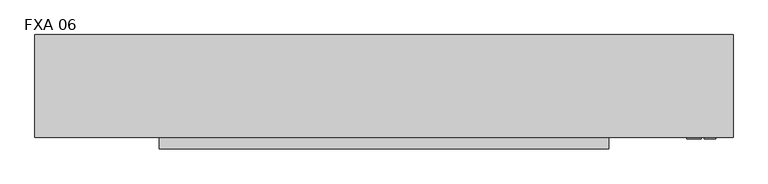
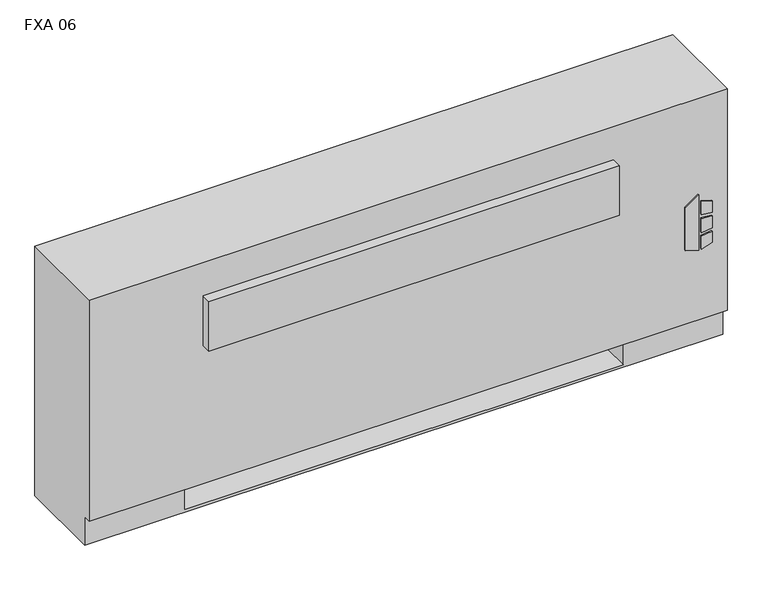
"""IFC4 building model written with IfcOpenShell, lengths in millimetres: proxy geometry, Vertical_Fan_Coil_Unit_-_FXA_-_IEC_-_2-Pipe_FS-FR_LH_2022 : FXA 06."""

from ifc_helpers import new_model, si_unit, point, frame, frame_2d, origin, place, context, project, spatial, polyline, circle_curve, trimmed, segment, composite_curve, outline, extrude, source, transform, mapped, element, save
from ifc_brep_helpers import plane_surface, revolved_surface, advanced_brep


def fxa_06_4799669e(model_context):
    return source(origin(), model_context, "Body", "SolidModel", [
        extrude(outline(polyline([(263.9480703, 823.9868862), (254.0, 856.1602728), (396.1709244, 856.1602728), (373.1489183, 823.9868862), (263.9480703, 823.9868862)])), frame((0.0, 12.7, 0.0), z_axis=(0.0, 1.0, 0.0), x_axis=(0.0, 0.0, 1.0)), (0.0, 0.0, 1.0), 3.175),
        extrude(outline(polyline([(342.9473557, 862.9186058), (339.7449632, 889.0), (368.9738042, 889.0), (377.0382193, 862.9186058), (342.9473557, 862.9186058)])), frame((0.0, 12.7, 0.0), z_axis=(0.0, 1.0, 0.0), x_axis=(0.0, 0.0, 1.0)), (0.0, 0.0, 1.0), 3.175),
        extrude(outline(polyline([(291.0838288, 889.0), (287.4183279, 862.9186058), (254.0, 862.9186058), (262.6342372, 889.0), (291.0838288, 889.0)])), frame((0.0, 12.7, 0.0), z_axis=(0.0, 1.0, 0.0), x_axis=(0.0, 0.0, 1.0)), (0.0, 0.0, 1.0), 3.175),
        extrude(outline(polyline([(330.3989903, 889.0), (332.6808166, 862.9186058), (296.7432681, 862.9186058), (299.4845331, 889.0), (330.3989903, 889.0)])), frame((0.0, 12.7, 0.0), z_axis=(0.0, 1.0, 0.0), x_axis=(0.0, 0.0, 1.0)), (0.0, 0.0, 1.0), 3.175),
        extrude(outline(polyline([(806.45, 223.266), (806.45, 81.534), (685.8, 81.534), (685.8, 223.266), (806.45, 223.266)])), frame((0.0, 0.0, 327.025), z_axis=(0.0, 0.0, 1.0), x_axis=(1.0, 0.0, 0.0)), (0.0, 0.0, 1.0), 260.35),
        extrude(outline(composite_curve([segment(trimmed(circle_curve(frame_2d((-444.5, 130.175)), 9.525), [point((-454.025, 130.175))], [point((-434.975, 130.175))], False, "CARTESIAN"), True, "CONTINUOUS"), segment(trimmed(circle_curve(frame_2d((-444.5, 130.175)), 9.525), [point((-434.975, 130.175))], [point((-454.025, 130.175))], False, "CARTESIAN"), True, "CONTINUOUS")], self_intersect=False)), frame((0.0, 0.0, 101.6), z_axis=(0.0, 0.0, 1.0), x_axis=(1.0, 0.0, 0.0)), (0.0, 0.0, 1.0), 25.4),
        extrude(outline(polyline([(-546.1, 63.5), (-546.1, 196.85), (-381.0, 196.85), (-381.0, 63.5), (-546.1, 63.5)])), frame((0.0, 0.0, 127.0), z_axis=(0.0, 0.0, 1.0), x_axis=(1.0, 0.0, 0.0)), (0.0, 0.0, 1.0), 50.8),
        extrude(outline(polyline([(650.875, -9.525), (-346.075, -9.525), (-346.075, 15.875), (650.875, 15.875), (650.875, -9.525)])), frame((0.0, 0.0, 428.625), z_axis=(0.0, 0.0, 1.0), x_axis=(1.0, 0.0, 0.0)), (0.0, 0.0, 1.0), 127.0),
        extrude(outline(composite_curve([segment(trimmed(circle_curve(frame_2d((93.1926, 485.5972)), 7.9375), [point((93.1926, 493.5347))], [point((93.1926, 477.6597))], False, "CARTESIAN"), True, "CONTINUOUS"), segment(trimmed(circle_curve(frame_2d((93.1926, 485.5972)), 7.9375), [point((93.1926, 477.6597))], [point((93.1926, 493.5347))], False, "CARTESIAN"), True, "CONTINUOUS")], self_intersect=False)), frame((-431.8, 0.0, 0.0), z_axis=(1.0, 0.0, 0.0), x_axis=(0.0, 1.0, 0.0)), (0.0, 0.0, 1.0), 50.8),
        extrude(outline(composite_curve([segment(trimmed(circle_curve(frame_2d((141.3002, 458.9526)), 7.9375), [point((141.3002, 466.8901))], [point((141.3002, 451.0151))], False, "CARTESIAN"), True, "CONTINUOUS"), segment(trimmed(circle_curve(frame_2d((141.3002, 458.9526)), 7.9375), [point((141.3002, 451.0151))], [point((141.3002, 466.8901))], False, "CARTESIAN"), True, "CONTINUOUS")], self_intersect=False)), frame((-431.8, 0.0, 0.0), z_axis=(1.0, 0.0, 0.0), x_axis=(0.0, 1.0, 0.0)), (0.0, 0.0, 1.0), 50.8),
        advanced_brep(
        [(927.1, 244.475, 641.35), (-622.3, 244.475, 641.35), (-622.3, 15.875, 641.35), (927.1, 15.875, 641.35), (-622.3, 244.475, 0.0), (927.1, 244.475, 0.0), (927.1, 34.925, 0.0), (-622.3, 34.925, 0.0), (685.8, 244.475, 73.025), (914.4, 244.475, 73.025), (914.4, 244.475, 628.65), (685.8, 244.475, 628.65), (685.8, 244.475, 414.8650565), (714.375, 244.475, 414.8650565), (714.375, 244.475, 385.2349435), (685.8, 244.475, 385.2349435), (685.8, 244.475, 287.3375), (714.375, 244.475, 287.3375), (714.375, 244.475, 258.7625), (685.8, 244.475, 258.7625), (685.8, 244.475, 141.2875), (714.375, 244.475, 141.2875), (714.375, 244.475, 112.7125), (685.8, 244.475, 112.7125), (-381.0, 244.475, 628.65), (-609.6, 244.475, 628.65), (-609.6, 244.475, 73.025), (-381.0, 244.475, 73.025), (-381.0, 244.475, 112.7125), (-409.575, 244.475, 112.7125), (-409.575, 244.475, 141.2875), (-381.0, 244.475, 141.2875), (-381.0, 244.475, 258.7625), (-409.575, 244.475, 258.7625), (-409.575, 244.475, 287.3375), (-381.0, 244.475, 287.3375), (-381.0, 244.475, 385.2349435), (-409.575, 244.475, 385.2349435), (-409.575, 244.475, 414.8650565), (-381.0, 244.475, 414.8650565), (704.0626, 244.475, 127.0), (692.9374, 244.475, 127.0), (704.0626, 244.475, 400.05), (692.9374, 244.475, 400.05), (704.0626, 244.475, 273.05), (692.9374, 244.475, 273.05), (-388.1374, 244.475, 127.0), (-399.2626, 244.475, 127.0), (-388.1374, 244.475, 273.05), (-399.2626, 244.475, 273.05), (-388.1374, 244.475, 400.05), (-399.2626, 244.475, 400.05), (-622.3, 34.925, 73.025), (-622.3, 15.875, 73.025), (927.1, 15.875, 73.025), (927.1, 34.925, 73.025), (-381.0, 34.925, 73.025), (-381.0, 219.075, 73.025), (685.8, 219.075, 73.025), (685.8, 34.925, 73.025), (685.8, 34.925, 6.35), (-381.0, 34.925, 6.35), (685.8, 41.275, 628.65), (914.4, 41.275, 628.65), (914.4, 41.275, 73.025), (685.8, 41.275, 73.025), (-381.0, 41.275, 628.65), (-381.0, 41.275, 73.025), (-609.6, 41.275, 73.025), (-609.6, 41.275, 628.65), (685.8, 219.075, 73.025), (685.8, 238.125, 112.7125), (685.8, 238.125, 141.2875), (685.8, 238.125, 258.7625), (685.8, 238.125, 287.3375), (685.8, 238.125, 385.2349435), (685.8, 238.125, 414.8650565), (-381.0, 219.075, 73.025), (-381.0, 238.125, 414.8650565), (-381.0, 238.125, 385.2349435), (-381.0, 238.125, 287.3375), (-381.0, 238.125, 258.7625), (-381.0, 238.125, 141.2875), (-381.0, 238.125, 112.7125), (-381.0, 219.075, 6.35), (685.8, 219.075, 6.35), (714.375, 238.125, 112.7125), (714.375, 238.125, 141.2875), (692.9374, 238.125, 127.0), (704.0626, 238.125, 127.0), (714.375, 238.125, 258.7625), (714.375, 238.125, 287.3375), (692.9374, 238.125, 273.05), (704.0626, 238.125, 273.05), (714.375, 238.125, 385.2349435), (714.375, 238.125, 414.8650565), (692.9374, 238.125, 400.05), (704.0626, 238.125, 400.05), (-409.575, 238.125, 141.2875), (-409.575, 238.125, 112.7125), (-399.2626, 238.125, 127.0), (-388.1374, 238.125, 127.0), (-409.575, 238.125, 287.3375), (-409.575, 238.125, 258.7625), (-399.2626, 238.125, 273.05), (-388.1374, 238.125, 273.05), (-409.575, 238.125, 414.8650565), (-409.575, 238.125, 385.2349435), (-399.2626, 238.125, 400.05), (-388.1374, 238.125, 400.05)],
        [
            (0, 1),
            (1, 2),
            (2, 3),
            (3, 0),
            (4, 5),
            (5, 6),
            (6, 7),
            (7, 4),
            (0, 5),
            (4, 1),
            (8, 9),
            (9, 10),
            (10, 11),
            (11, 12),
            (12, 13),
            (13, 14),
            (14, 15),
            (15, 16),
            (16, 17),
            (17, 18),
            (18, 19),
            (19, 20),
            (20, 21),
            (21, 22),
            (22, 23),
            (23, 8),
            (24, 25),
            (25, 26),
            (26, 27),
            (27, 28),
            (28, 29),
            (29, 30),
            (30, 31),
            (31, 32),
            (32, 33),
            (33, 34),
            (34, 35),
            (35, 36),
            (36, 37),
            (37, 38),
            (38, 39),
            (39, 24),
            (40, 41, circle_curve(frame((698.5, 244.475, 127.0), z_axis=(0.0, -1.0, 0.0), x_axis=(-1.0, 0.0, 0.0)), 5.5626)),
            (41, 40, circle_curve(frame((698.5, 244.475, 127.0), z_axis=(0.0, -1.0, 0.0), x_axis=(-1.0, 0.0, 0.0)), 5.5626)),
            (42, 43, circle_curve(frame((698.5, 244.475, 400.05), z_axis=(0.0, -1.0, 0.0), x_axis=(-1.0, 0.0, 0.0)), 5.5626)),
            (43, 42, circle_curve(frame((698.5, 244.475, 400.05), z_axis=(0.0, -1.0, 0.0), x_axis=(-1.0, 0.0, 0.0)), 5.5626)),
            (44, 45, circle_curve(frame((698.5, 244.475, 273.05), z_axis=(0.0, -1.0, 0.0), x_axis=(-1.0, 0.0, 0.0)), 5.5626)),
            (45, 44, circle_curve(frame((698.5, 244.475, 273.05), z_axis=(0.0, -1.0, 0.0), x_axis=(-1.0, 0.0, 0.0)), 5.5626)),
            (46, 47, circle_curve(frame((-393.7, 244.475, 127.0), z_axis=(0.0, -1.0, 0.0), x_axis=(-1.0, 0.0, 0.0)), 5.5626)),
            (47, 46, circle_curve(frame((-393.7, 244.475, 127.0), z_axis=(0.0, -1.0, 0.0), x_axis=(-1.0, 0.0, 0.0)), 5.5626)),
            (48, 49, circle_curve(frame((-393.7, 244.475, 273.05), z_axis=(0.0, -1.0, 0.0), x_axis=(-1.0, 0.0, 0.0)), 5.5626)),
            (49, 48, circle_curve(frame((-393.7, 244.475, 273.05), z_axis=(0.0, -1.0, 0.0), x_axis=(-1.0, 0.0, 0.0)), 5.5626)),
            (50, 51, circle_curve(frame((-393.7, 244.475, 400.05), z_axis=(0.0, -1.0, 0.0), x_axis=(-1.0, 0.0, 0.0)), 5.5626)),
            (51, 50, circle_curve(frame((-393.7, 244.475, 400.05), z_axis=(0.0, -1.0, 0.0), x_axis=(-1.0, 0.0, 0.0)), 5.5626)),
            (7, 52),
            (52, 53),
            (53, 2),
            (53, 54),
            (54, 3),
            (54, 55),
            (55, 6),
            (52, 56),
            (56, 57),
            (57, 58),
            (58, 59),
            (59, 55),
            (59, 60),
            (60, 61),
            (61, 56),
            (62, 63),
            (63, 64),
            (64, 65),
            (65, 62),
            (66, 67),
            (67, 68),
            (68, 69),
            (69, 66),
            (65, 70),
            (70, 8),
            (23, 71),
            (71, 72),
            (72, 20),
            (19, 73),
            (73, 74),
            (74, 16),
            (15, 75),
            (75, 76),
            (76, 12),
            (11, 62),
            (64, 9),
            (63, 10),
            (69, 25),
            (24, 66),
            (68, 26),
            (67, 77),
            (77, 27),
            (39, 78),
            (78, 79),
            (79, 36),
            (35, 80),
            (80, 81),
            (81, 32),
            (31, 82),
            (82, 83),
            (83, 28),
            (57, 84),
            (84, 85),
            (85, 58),
            (85, 60),
            (84, 61),
            (71, 86),
            (86, 87),
            (87, 72),
            (88, 89, circle_curve(frame((698.5, 238.125, 127.0), z_axis=(0.0, 1.0, 0.0), x_axis=(-1.0, 0.0, 0.0)), 5.5626)),
            (89, 88, circle_curve(frame((698.5, 238.125, 127.0), z_axis=(0.0, 1.0, 0.0), x_axis=(-1.0, 0.0, 0.0)), 5.5626)),
            (73, 90),
            (90, 91),
            (91, 74),
            (92, 93, circle_curve(frame((698.5, 238.125, 273.05), z_axis=(0.0, 1.0, 0.0), x_axis=(-1.0, 0.0, 0.0)), 5.5626)),
            (93, 92, circle_curve(frame((698.5, 238.125, 273.05), z_axis=(0.0, 1.0, 0.0), x_axis=(-1.0, 0.0, 0.0)), 5.5626)),
            (75, 94),
            (94, 95),
            (95, 76),
            (96, 97, circle_curve(frame((698.5, 238.125, 400.05), z_axis=(0.0, 1.0, 0.0), x_axis=(-1.0, 0.0, 0.0)), 5.5626)),
            (97, 96, circle_curve(frame((698.5, 238.125, 400.05), z_axis=(0.0, 1.0, 0.0), x_axis=(-1.0, 0.0, 0.0)), 5.5626)),
            (98, 99),
            (99, 83),
            (82, 98),
            (100, 101, circle_curve(frame((-393.7, 238.125, 127.0), z_axis=(0.0, 1.0, 0.0), x_axis=(-1.0, 0.0, 0.0)), 5.5626)),
            (101, 100, circle_curve(frame((-393.7, 238.125, 127.0), z_axis=(0.0, 1.0, 0.0), x_axis=(-1.0, 0.0, 0.0)), 5.5626)),
            (102, 103),
            (103, 81),
            (80, 102),
            (104, 105, circle_curve(frame((-393.7, 238.125, 273.05), z_axis=(0.0, 1.0, 0.0), x_axis=(-1.0, 0.0, 0.0)), 5.5626)),
            (105, 104, circle_curve(frame((-393.7, 238.125, 273.05), z_axis=(0.0, 1.0, 0.0), x_axis=(-1.0, 0.0, 0.0)), 5.5626)),
            (106, 107),
            (107, 79),
            (78, 106),
            (108, 109, circle_curve(frame((-393.7, 238.125, 400.05), z_axis=(0.0, 1.0, 0.0), x_axis=(-1.0, 0.0, 0.0)), 5.5626)),
            (109, 108, circle_curve(frame((-393.7, 238.125, 400.05), z_axis=(0.0, 1.0, 0.0), x_axis=(-1.0, 0.0, 0.0)), 5.5626)),
            (87, 21),
            (86, 22),
            (91, 17),
            (90, 18),
            (95, 13),
            (94, 14),
            (30, 98),
            (99, 29),
            (34, 102),
            (103, 33),
            (38, 106),
            (107, 37),
            (88, 41),
            (40, 89),
            (96, 43),
            (42, 97),
            (92, 45),
            (44, 93),
            (100, 47),
            (46, 101),
            (104, 49),
            (48, 105),
            (108, 51),
            (50, 109),
        ],
        [
            plane_surface(frame((-622.3, 244.475, 641.35), z_axis=(0.0, 0.0, 1.0), x_axis=(-1.0, 0.0, 0.0))),
            plane_surface(frame((-622.3, 244.475, 0.0), z_axis=(0.0, 0.0, -1.0), x_axis=(1.0, 0.0, 0.0))),
            plane_surface(frame((927.1, 244.475, 641.35), z_axis=(0.0, 1.0, 0.0), x_axis=(0.0, 0.0, -1.0))),
            plane_surface(frame((-622.3, 244.475, 641.35), z_axis=(-1.0, 0.0, 0.0), x_axis=(0.0, 0.0, -1.0))),
            plane_surface(frame((-622.3, 15.875, 641.35), z_axis=(0.0, -1.0, 0.0), x_axis=(0.0, 0.0, -1.0))),
            plane_surface(frame((927.1, 15.875, 641.35), z_axis=(1.0, 0.0, 0.0), x_axis=(0.0, 0.0, -1.0))),
            plane_surface(frame((-622.3, 15.875, 73.025), z_axis=(0.0, 0.0, -1.0), x_axis=(1.0, 0.0, 0.0))),
            plane_surface(frame((-622.3, 34.925, 73.025), z_axis=(0.0, -1.0, 0.0), x_axis=(1.0, 0.0, 0.0))),
            plane_surface(frame((685.8, 41.275, 628.65), z_axis=(0.0, 1.0, 0.0), x_axis=(0.0, 0.0, -1.0))),
            plane_surface(frame((685.8, 41.275, 628.65), z_axis=(1.0, 0.0, 0.0), x_axis=(0.0, 1.0, 0.0))),
            plane_surface(frame((685.8, 41.275, 73.025), z_axis=(0.0, 0.0, 1.0), x_axis=(0.0, 1.0, 0.0))),
            plane_surface(frame((914.4, 41.275, 73.025), z_axis=(-1.0, 0.0, 0.0), x_axis=(0.0, 1.0, 0.0))),
            plane_surface(frame((914.4, 41.275, 628.65), z_axis=(0.0, 0.0, -1.0), x_axis=(0.0, 1.0, 0.0))),
            plane_surface(frame((-381.0, 41.275, 628.65), z_axis=(0.0, 0.0, -1.0), x_axis=(0.0, 1.0, 0.0))),
            plane_surface(frame((-609.6, 41.275, 628.65), z_axis=(1.0, 0.0, 0.0), x_axis=(0.0, 1.0, 0.0))),
            plane_surface(frame((-609.6, 41.275, 73.025), z_axis=(0.0, 0.0, 1.0), x_axis=(0.0, 1.0, 0.0))),
            plane_surface(frame((-381.0, 41.275, 73.025), z_axis=(-1.0, 0.0, 0.0), x_axis=(0.0, 1.0, 0.0))),
            plane_surface(frame((685.8, 219.075, 73.025), z_axis=(0.0, -1.0, 0.0), x_axis=(0.0, 0.0, -1.0))),
            plane_surface(frame((685.8, 219.075, 73.025), z_axis=(-1.0, 0.0, 0.0), x_axis=(0.0, -1.0, 0.0))),
            plane_surface(frame((685.8, 219.075, 6.35), z_axis=(0.0, 0.0, 1.0), x_axis=(0.0, -1.0, 0.0))),
            plane_surface(frame((-381.0, 219.075, 6.35), z_axis=(1.0, 0.0, 0.0), x_axis=(0.0, -1.0, 0.0))),
            plane_surface(frame((714.375, 238.125, 141.2875), z_axis=(0.0, -1.0, 0.0), x_axis=(-1.0, 0.0, 0.0))),
            plane_surface(frame((685.8, 244.475, 141.2875), z_axis=(0.0, 0.0, 1.0), x_axis=(0.0, -1.0, 0.0))),
            plane_surface(frame((714.375, 244.475, 141.2875), z_axis=(1.0, 0.0, 0.0), x_axis=(0.0, -1.0, 0.0))),
            plane_surface(frame((714.375, 244.475, 112.7125), z_axis=(0.0, 0.0, -1.0), x_axis=(0.0, -1.0, 0.0))),
            plane_surface(frame((685.8, 244.475, 287.3375), z_axis=(0.0, 0.0, 1.0), x_axis=(0.0, -1.0, 0.0))),
            plane_surface(frame((714.375, 244.475, 287.3375), z_axis=(1.0, 0.0, 0.0), x_axis=(0.0, -1.0, 0.0))),
            plane_surface(frame((714.375, 244.475, 258.7625), z_axis=(0.0, 0.0, -1.0), x_axis=(0.0, -1.0, 0.0))),
            plane_surface(frame((685.8, 244.475, 414.8650565), z_axis=(0.0, 0.0, 1.0), x_axis=(0.0, -1.0, 0.0))),
            plane_surface(frame((714.375, 244.475, 414.8650565), z_axis=(1.0, 0.0, 0.0), x_axis=(0.0, -1.0, 0.0))),
            plane_surface(frame((714.375, 244.475, 385.2349435), z_axis=(0.0, 0.0, -1.0), x_axis=(0.0, -1.0, 0.0))),
            plane_surface(frame((-409.575, 244.475, 141.2875), z_axis=(0.0, 0.0, 1.0), x_axis=(0.0, -1.0, 0.0))),
            plane_surface(frame((-381.0, 244.475, 112.7125), z_axis=(0.0, 0.0, -1.0), x_axis=(0.0, -1.0, 0.0))),
            plane_surface(frame((-409.575, 244.475, 112.7125), z_axis=(-1.0, 0.0, 0.0), x_axis=(0.0, -1.0, 0.0))),
            plane_surface(frame((-409.575, 244.475, 287.3375), z_axis=(0.0, 0.0, 1.0), x_axis=(0.0, -1.0, 0.0))),
            plane_surface(frame((-381.0, 244.475, 258.7625), z_axis=(0.0, 0.0, -1.0), x_axis=(0.0, -1.0, 0.0))),
            plane_surface(frame((-409.575, 244.475, 258.7625), z_axis=(-1.0, 0.0, 0.0), x_axis=(0.0, -1.0, 0.0))),
            plane_surface(frame((-409.575, 244.475, 414.8650565), z_axis=(0.0, 0.0, 1.0), x_axis=(0.0, -1.0, 0.0))),
            plane_surface(frame((-381.0, 244.475, 385.2349435), z_axis=(0.0, 0.0, -1.0), x_axis=(0.0, -1.0, 0.0))),
            plane_surface(frame((-409.575, 244.475, 385.2349435), z_axis=(-1.0, 0.0, 0.0), x_axis=(0.0, -1.0, 0.0))),
            revolved_surface(polyline([(692.9374, 238.125, 127.0), (692.9374, 244.475, 127.0)]), (698.5, 244.475, 127.0), (0.0, -1.0, 0.0)),
            revolved_surface(polyline([(692.9374, 238.125, 400.05), (692.9374, 244.475, 400.05)]), (698.5, 244.475, 400.05), (0.0, -1.0, 0.0)),
            revolved_surface(polyline([(692.9374, 238.125, 273.05), (692.9374, 244.475, 273.05)]), (698.5, 244.475, 273.05), (0.0, -1.0, 0.0)),
            revolved_surface(polyline([(-399.26259999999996, 238.125, 127.0), (-399.26259999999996, 244.475, 127.0)]), (-393.7, 244.475, 127.0), (0.0, -1.0, 0.0)),
            revolved_surface(polyline([(-399.26259999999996, 238.125, 273.05), (-399.26259999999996, 244.475, 273.05)]), (-393.7, 244.475, 273.05), (0.0, -1.0, 0.0)),
            revolved_surface(polyline([(-399.26259999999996, 238.125, 400.05), (-399.26259999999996, 244.475, 400.05)]), (-393.7, 244.475, 400.05), (0.0, -1.0, 0.0)),
        ],
        [
            (0, [[1, 2, 3, 4]]),
            (1, [[5, 6, 7, 8]]),
            (2, [[-1, 9, -5, 10], [11, 12, 13, 14, 15, 16, 17, 18, 19, 20, 21, 22, 23, 24, 25, 26], [27, 28, 29, 30, 31, 32, 33, 34, 35, 36, 37, 38, 39, 40, 41, 42], [43, 44], [45, 46], [47, 48], [49, 50], [51, 52], [53, 54]]),
            (3, [[-2, -10, -8, 55, 56, 57]]),
            (4, [[-3, -57, 58, 59]]),
            (5, [[-4, -59, 60, 61, -6, -9]]),
            (6, [[-56, 62, 63, 64, 65, 66, -60, -58]]),
            (7, [[-7, -61, -66, 67, 68, 69, -62, -55]]),
            (8, [[70, 71, 72, 73]]),
            (8, [[74, 75, 76, 77]]),
            (9, [[-73, 78, 79, -26, 80, 81, 82, -22, 83, 84, 85, -18, 86, 87, 88, -14, 89]]),
            (10, [[-72, 90, -11, -79, -78]]),
            (11, [[-71, 91, -12, -90]]),
            (12, [[-70, -89, -13, -91]]),
            (13, [[-77, 92, -27, 93]]),
            (14, [[-76, 94, -28, -92]]),
            (15, [[-75, 95, 96, -29, -94]]),
            (16, [[-74, -93, -42, 97, 98, 99, -38, 100, 101, 102, -34, 103, 104, 105, -30, -96, -95]]),
            (17, [[-64, 106, 107, 108]]),
            (18, [[-108, 109, -67, -65]]),
            (19, [[-107, 110, -68, -109]]),
            (20, [[-106, -63, -69, -110]]),
            (21, [[111, 112, 113, -81], [114, 115]]),
            (21, [[116, 117, 118, -84], [119, 120]]),
            (21, [[121, 122, 123, -87], [124, 125]]),
            (21, [[126, 127, -104, 128], [129, 130]]),
            (21, [[131, 132, -101, 133], [134, 135]]),
            (21, [[136, 137, -98, 138], [139, 140]]),
            (22, [[-113, 141, -23, -82]]),
            (23, [[-112, 142, -24, -141]]),
            (24, [[-111, -80, -25, -142]]),
            (25, [[-118, 143, -19, -85]]),
            (26, [[-117, 144, -20, -143]]),
            (27, [[-116, -83, -21, -144]]),
            (28, [[-123, 145, -15, -88]]),
            (29, [[-122, 146, -16, -145]]),
            (30, [[-121, -86, -17, -146]]),
            (31, [[-128, -103, -33, 147]]),
            (32, [[-127, 148, -31, -105]]),
            (33, [[-126, -147, -32, -148]]),
            (34, [[-133, -100, -37, 149]]),
            (35, [[-132, 150, -35, -102]]),
            (36, [[-131, -149, -36, -150]]),
            (37, [[-138, -97, -41, 151]]),
            (38, [[-137, 152, -39, -99]]),
            (39, [[-136, -151, -40, -152]]),
            (40, [[153, -43, 154, -114]]),
            (40, [[-153, -115, -154, -44]]),
            (41, [[155, -45, 156, -124]]),
            (41, [[-155, -125, -156, -46]]),
            (42, [[157, -47, 158, -119]]),
            (42, [[-157, -120, -158, -48]]),
            (43, [[159, -49, 160, -129]]),
            (43, [[-159, -130, -160, -50]]),
            (44, [[161, -51, 162, -134]]),
            (44, [[-161, -135, -162, -52]]),
            (45, [[163, -53, 164, -139]]),
            (45, [[-163, -140, -164, -54]]),
        ],
    ),
    ])


if __name__ == "__main__":
    model = new_model("IFC4")
    model_context = context("Model", 3, world=origin())
    ifc_project = project(units=[si_unit("LENGTHUNIT", "METRE", prefix="MILLI")], contexts=[model_context])
    site = spatial("IfcSite", under=ifc_project)
    building = spatial("IfcBuilding", under=site)
    placement = place(None, origin())
    fxa_06_shape = fxa_06_4799669e(model_context)
    element("IfcBuildingElementProxy", 1, Name="Vertical_Fan_Coil_Unit_-_FXA_-_IEC_-_2-Pipe_FS-FR_LH_2022 : FXA 06", ObjectType="Vertical_Fan_Coil_Unit_-_FXA_-_IEC_-_2-Pipe_FS-FR_LH_2022 : FXA 06", at=placement, inside=building, context=model_context, shape_type="MappedRepresentation", body=[
        mapped(fxa_06_shape, transform((0.0, 0.0, 0.0), x_axis=(1.0, 0.0, 0.0), y_axis=(0.0, 1.0, 0.0), z_axis=(0.0, 0.0, 1.0))),
    ])
    save(model, "model.ifc")
